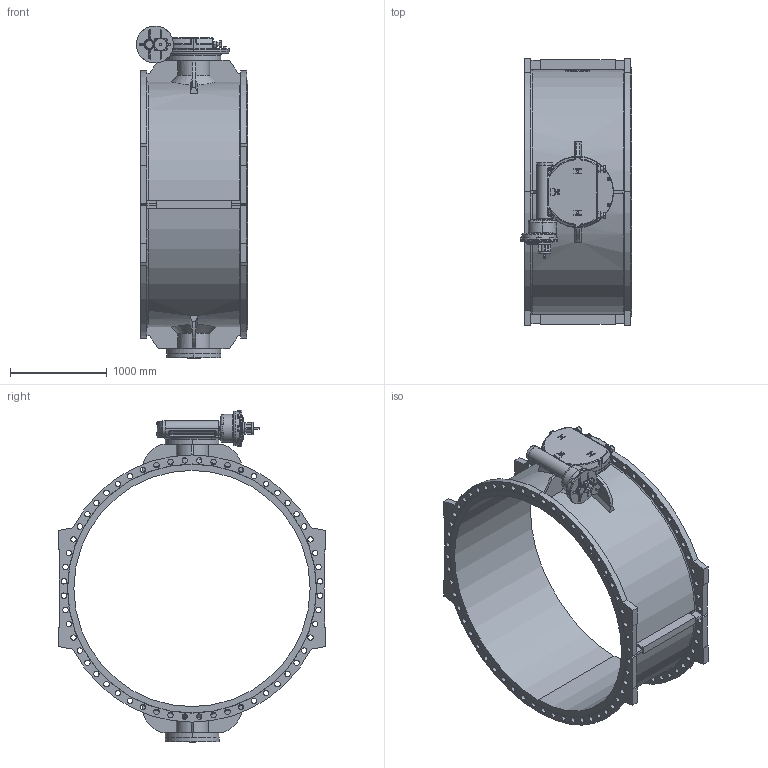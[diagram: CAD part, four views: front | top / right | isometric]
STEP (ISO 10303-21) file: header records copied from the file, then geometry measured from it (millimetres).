
FILE_DESCRIPTION (( 'STEP AP203' ), '1' );
FILE_NAME ('O_756_102_DN2400_0XX02_REV01.step', '2021-09-30T08:42:07', ( '' ), ( '' ), 'SwSTEP 2.0', 'SolidWorks 2019', '' );
FILE_SCHEMA (( 'CONFIG_CONTROL_DESIGN' ));
Length unit declared in the file: millimetre
Products named in the file (1): O_756_102_DN2400_0XX02_REV01
Bounding box: 1147.9 x 2760 x 3429.5 mm (x, y, z)
Volume: 707126959.8 mm3; surface area: 27131817.9 mm2
Topology: 2 solids, 2 shells, 1335 faces, 3465 edges, 2107 vertices
Faces by surface type: cylinder 513, plane 374, torus 167, bspline 167, cone 68, sphere 46
Entity records: 51997 total; most frequent: CARTESIAN_POINT 19849, ORIENTED_EDGE 6814, DIRECTION 6647, EDGE_CURVE 3407, AXIS2_PLACEMENT_3D 2652, VERTEX_POINT 2102, EDGE_LOOP 1587, CIRCLE 1483
